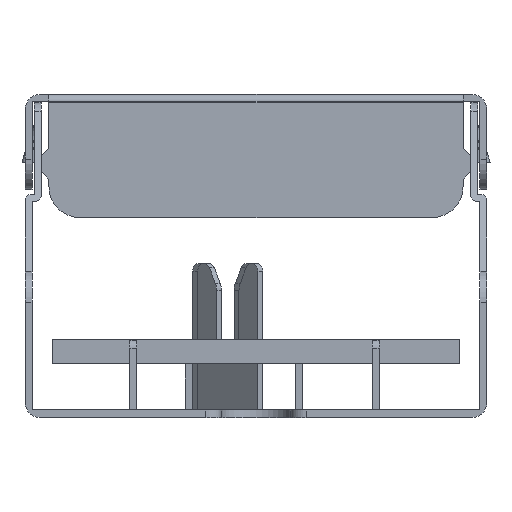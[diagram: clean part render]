
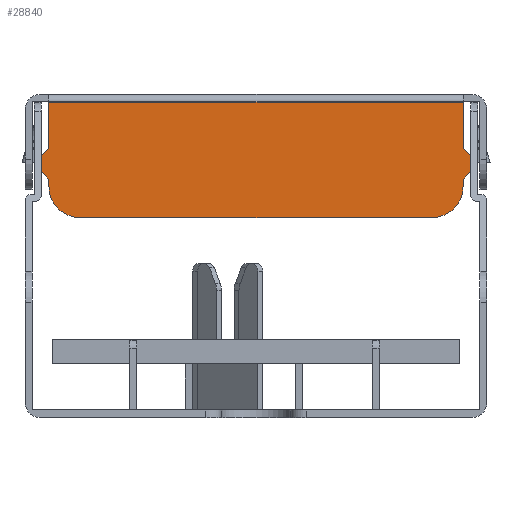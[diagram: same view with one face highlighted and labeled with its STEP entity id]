
A CAD part, left-side view. The second image highlights one B-rep face of the part: STEP entity #28840.
In plain terms, the highlighted planar face has unit normal (-1, 0, 0).
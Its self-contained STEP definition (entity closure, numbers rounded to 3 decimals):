
#9700=CARTESIAN_POINT('',(38.199,42.389,21.));
#9710=VERTEX_POINT('',#9700);
#9740=CARTESIAN_POINT('',(38.199,42.389,26.));
#9750=DIRECTION('',(0.,0.,-1.));
#9760=VECTOR('',#9750,1.);
#9770=LINE('',#9740,#9760);
#9780=CARTESIAN_POINT('',(38.199,42.389,24.));
#9790=VERTEX_POINT('',#9780);
#9800=EDGE_CURVE('',#9790,#9710,#9770,.T.);
#11200=CARTESIAN_POINT('',(38.199,69.289,24.));
#11210=VERTEX_POINT('',#11200);
#11240=CARTESIAN_POINT('',(38.199,69.289,21.));
#11250=DIRECTION('',(0.,0.,1.));
#11260=VECTOR('',#11250,1.);
#11270=LINE('',#11240,#11260);
#11280=CARTESIAN_POINT('',(38.199,69.289,21.));
#11290=VERTEX_POINT('',#11280);
#11300=EDGE_CURVE('',#11290,#11210,#11270,.T.);
#23840=CARTESIAN_POINT('',(38.199,67.289,18.5));
#23850=DIRECTION('',(-1.,0.,0.));
#23860=DIRECTION('',(0.,1.,0.));
#23870=AXIS2_PLACEMENT_3D('',#23840,#23850,#23860);
#23880=CIRCLE('',#23870,2.);
#23890=CARTESIAN_POINT('',(38.199,69.289,18.5));
#23900=VERTEX_POINT('',#23890);
#23910=CARTESIAN_POINT('',(38.199,67.289,16.5));
#23920=VERTEX_POINT('',#23910);
#23930=EDGE_CURVE('',#23900,#23920,#23880,.T.);
#24200=CARTESIAN_POINT('',(38.199,70.218,
19.929));
#24210=VERTEX_POINT('',#24200);
#24240=CARTESIAN_POINT('',(38.199,70.218,
19.929));
#24250=DIRECTION('',(0.,-0.707,-0.707));
#24260=VECTOR('',#24250,1.);
#24270=LINE('',#24240,#24260);
#24280=CARTESIAN_POINT('',(38.199,69.289,19.));
#24290=VERTEX_POINT('',#24280);
#24300=EDGE_CURVE('',#24210,#24290,#24270,.T.);
#25590=CARTESIAN_POINT('',(38.199,69.289,
21.));
#25600=DIRECTION('',(0.,0.707,-0.707));
#25610=VECTOR('',#25600,1.);
#25620=LINE('',#25590,#25610);
#25630=CARTESIAN_POINT('',(38.199,70.218,
20.071));
#25640=VERTEX_POINT('',#25630);
#25650=EDGE_CURVE('',#11290,#25640,#25620,.T.);
#26490=CARTESIAN_POINT('',(38.199,44.889,16.5));
#26500=DIRECTION('',(0.,1.,0.));
#26510=VECTOR('',#26500,1.);
#26520=LINE('',#26490,#26510);
#26530=CARTESIAN_POINT('',(38.199,44.389,16.5));
#26540=VERTEX_POINT('',#26530);
#26550=EDGE_CURVE('',#26540,#23920,#26520,.T.);
#27390=CARTESIAN_POINT('',(38.199,69.289,15.5));
#27400=DIRECTION('',(0.,0.,1.));
#27410=VECTOR('',#27400,1.);
#27420=LINE('',#27390,#27410);
#27430=EDGE_CURVE('',#23900,#24290,#27420,.T.);
#27540=CARTESIAN_POINT('',(38.199,70.147,20.));
#27550=DIRECTION('',(-1.,0.,0.));
#27560=DIRECTION('',(0.,0.707,0.707));
#27570=AXIS2_PLACEMENT_3D('',#27540,#27550,#27560);
#27580=CIRCLE('',#27570,0.1);
#27590=EDGE_CURVE('',#25640,#24210,#27580,.T.);
#28170=CARTESIAN_POINT('',(38.199,68.789,24.));
#28180=DIRECTION('',(0.,-1.,0.));
#28190=VECTOR('',#28180,1.);
#28200=LINE('',#28170,#28190);
#28210=EDGE_CURVE('',#11210,#9790,#28200,.T.);
#28280=CARTESIAN_POINT('',(38.199,55.839,26.25));
#28290=DIRECTION('',(-1.,0.,0.));
#28300=DIRECTION('',(0.,-1.,0.));
#28310=AXIS2_PLACEMENT_3D('',#28280,#28290,#28300);
#28320=PLANE('',#28310);
#28330=ORIENTED_EDGE('',*,*,#9800,.F.);
#28340=CARTESIAN_POINT('',(38.199,41.459,
20.071));
#28350=DIRECTION('',(0.,0.707,0.707));
#28360=VECTOR('',#28350,1.);
#28370=LINE('',#28340,#28360);
#28380=CARTESIAN_POINT('',(38.199,41.459,
20.071));
#28390=VERTEX_POINT('',#28380);
#28400=EDGE_CURVE('',#28390,#9710,#28370,.T.);
#28410=ORIENTED_EDGE('',*,*,#28400,.T.);
#28420=CARTESIAN_POINT('',(38.199,41.53,20.));
#28430=DIRECTION('',(-1.,0.,0.));
#28440=DIRECTION('',(0.,-0.707,-0.707));
#28450=AXIS2_PLACEMENT_3D('',#28420,#28430,#28440);
#28460=CIRCLE('',#28450,0.1);
#28470=CARTESIAN_POINT('',(38.199,41.459,
19.929));
#28480=VERTEX_POINT('',#28470);
#28490=EDGE_CURVE('',#28480,#28390,#28460,.T.);
#28500=ORIENTED_EDGE('',*,*,#28490,.T.);
#28510=CARTESIAN_POINT('',(38.199,42.389,19.));
#28520=DIRECTION('',(0.,-0.707,0.707));
#28530=VECTOR('',#28520,1.);
#28540=LINE('',#28510,#28530);
#28550=CARTESIAN_POINT('',(38.199,42.389,19.));
#28560=VERTEX_POINT('',#28550);
#28570=EDGE_CURVE('',#28560,#28480,#28540,.T.);
#28580=ORIENTED_EDGE('',*,*,#28570,.T.);
#28590=CARTESIAN_POINT('',(38.199,42.389,19.));
#28600=DIRECTION('',(0.,0.,-1.));
#28610=VECTOR('',#28600,1.);
#28620=LINE('',#28590,#28610);
#28630=CARTESIAN_POINT('',(38.199,42.389,18.5));
#28640=VERTEX_POINT('',#28630);
#28650=EDGE_CURVE('',#28560,#28640,#28620,.T.);
#28660=ORIENTED_EDGE('',*,*,#28650,.F.);
#28670=CARTESIAN_POINT('',(38.199,44.389,18.5));
#28680=DIRECTION('',(-1.,0.,0.));
#28690=DIRECTION('',(0.,0.,-1.));
#28700=AXIS2_PLACEMENT_3D('',#28670,#28680,#28690);
#28710=CIRCLE('',#28700,2.);
#28720=EDGE_CURVE('',#26540,#28640,#28710,.T.);
#28730=ORIENTED_EDGE('',*,*,#28720,.T.);
#28740=ORIENTED_EDGE('',*,*,#26550,.F.);
#28750=ORIENTED_EDGE('',*,*,#23930,.T.);
#28760=ORIENTED_EDGE('',*,*,#27430,.F.);
#28770=ORIENTED_EDGE('',*,*,#24300,.T.);
#28780=ORIENTED_EDGE('',*,*,#27590,.T.);
#28790=ORIENTED_EDGE('',*,*,#25650,.T.);
#28800=ORIENTED_EDGE('',*,*,#11300,.F.);
#28810=ORIENTED_EDGE('',*,*,#28210,.F.);
#28820=EDGE_LOOP('',(#28810,#28800,#28790,#28780,#28770,#28760,#28750,
#28740,#28730,#28660,#28580,#28500,#28410,#28330));
#28830=FACE_OUTER_BOUND('',#28820,.T.);
#28840=ADVANCED_FACE('',(#28830),#28320,.T.);
